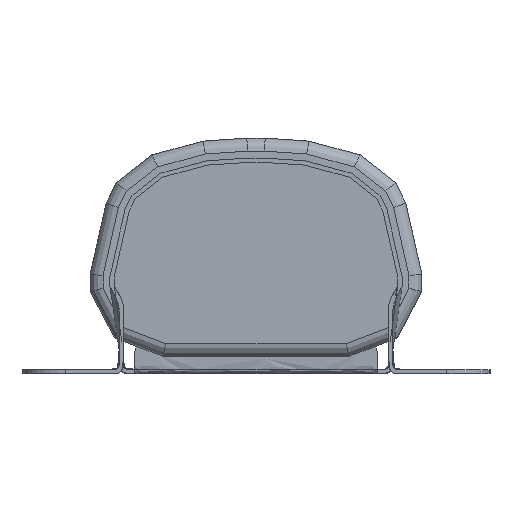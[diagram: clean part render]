
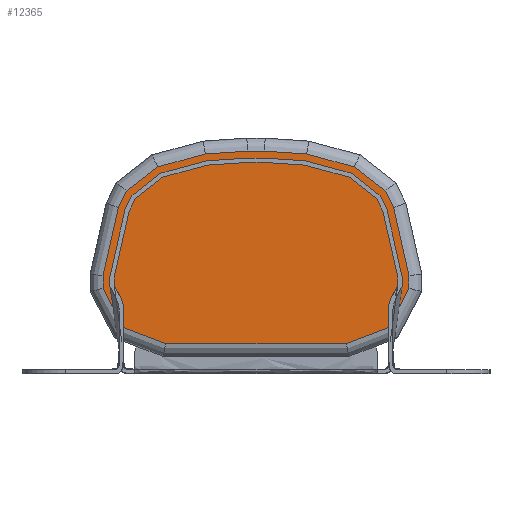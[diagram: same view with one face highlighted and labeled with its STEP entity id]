
A CAD part, left-side view. The second image highlights one B-rep face of the part: STEP entity #12365.
In plain terms, the highlighted planar face has unit normal (-1, 0, 0).
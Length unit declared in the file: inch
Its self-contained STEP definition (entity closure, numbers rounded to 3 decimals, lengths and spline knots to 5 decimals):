
#124 = ORIENTED_EDGE ( 'NONE', *, *, #11000, .F. ) ;
#620 = VECTOR ( 'NONE', #6642, 39.37008 ) ;
#664 = CARTESIAN_POINT ( 'NONE',  ( -17.70669, 0.69488, 0.41339 ) ) ;
#703 = VERTEX_POINT ( 'NONE', #4856 ) ;
#736 = VERTEX_POINT ( 'NONE', #5446 ) ;
#1008 = DIRECTION ( 'NONE',  ( 0., -0.441, 0.898 ) ) ;
#1064 = DIRECTION ( 'NONE',  ( 0., 1., 0. ) ) ;
#1134 = CARTESIAN_POINT ( 'NONE',  ( -17.70669, 0., 0.1378 ) ) ;
#1176 = ORIENTED_EDGE ( 'NONE', *, *, #13439, .F. ) ;
#1306 = VECTOR ( 'NONE', #7436, 39.37008 ) ;
#1350 = ORIENTED_EDGE ( 'NONE', *, *, #16569, .F. ) ;
#1777 = VECTOR ( 'NONE', #14687, 39.37008 ) ;
#1937 = LINE ( 'NONE', #9473, #16353 ) ;
#2205 = CARTESIAN_POINT ( 'NONE',  ( -17.70669, 0.64642, 0.29602 ) ) ;
#2232 = LINE ( 'NONE', #15515, #5524 ) ;
#2293 = EDGE_CURVE ( 'NONE', #3516, #14805, #16464, .T. ) ;
#2320 = CARTESIAN_POINT ( 'NONE',  ( -17.70669, 0.44609, 0.94037 ) ) ;
#2643 = CARTESIAN_POINT ( 'NONE',  ( -17.70669, 0.69488, 0.38854 ) ) ;
#2718 = CARTESIAN_POINT ( 'NONE',  ( -17.70669, 0.41045, 0.1378 ) ) ;
#2985 = CARTESIAN_POINT ( 'NONE',  ( -17.70669, -0.69488, 0.41339 ) ) ;
#3101 = CARTESIAN_POINT ( 'NONE',  ( -17.70669, -0.64642, 0.29602 ) ) ;
#3121 = EDGE_CURVE ( 'NONE', #14147, #736, #13590, .T. ) ;
#3296 = VECTOR ( 'NONE', #7617, 39.37008 ) ;
#3516 = VERTEX_POINT ( 'NONE', #17557 ) ;
#3560 = VECTOR ( 'NONE', #13193, 39.37008 ) ;
#4034 = AXIS2_PLACEMENT_3D ( 'NONE', #8186, #17888, #9576 ) ;
#4051 = ORIENTED_EDGE ( 'NONE', *, *, #11209, .F. ) ;
#4329 = CARTESIAN_POINT ( 'NONE',  ( -17.70669, 0.13684, 1.00524 ) ) ;
#4397 = DIRECTION ( 'NONE',  ( 0., 0., -1. ) ) ;
#4637 = DIRECTION ( 'NONE',  ( 0., 0.464, -0.886 ) ) ;
#4816 = VECTOR ( 'NONE', #4397, 39.37008 ) ;
#4856 = CARTESIAN_POINT ( 'NONE',  ( -17.70669, -0.69488, 0.38854 ) ) ;
#4888 = EDGE_CURVE ( 'NONE', #7848, #9646, #11385, .T. ) ;
#4928 = CARTESIAN_POINT ( 'NONE',  ( -17.70669, -0.60522, 0.79615 ) ) ;
#5145 = DIRECTION ( 'NONE',  ( 0., -0.791, -0.611 ) ) ;
#5176 = VERTEX_POINT ( 'NONE', #2320 ) ;
#5249 = LINE ( 'NONE', #4329, #12321 ) ;
#5257 = DIRECTION ( 'NONE',  ( 0., -0.22, 0.975 ) ) ;
#5446 = CARTESIAN_POINT ( 'NONE',  ( -17.70669, -0.41045, 0.1378 ) ) ;
#5465 = EDGE_CURVE ( 'NONE', #16060, #3516, #15704, .T. ) ;
#5489 = ORIENTED_EDGE ( 'NONE', *, *, #10057, .F. ) ;
#5499 = ORIENTED_EDGE ( 'NONE', *, *, #8814, .F. ) ;
#5524 = VECTOR ( 'NONE', #5761, 39.37008 ) ;
#5542 = ORIENTED_EDGE ( 'NONE', *, *, #4888, .F. ) ;
#5615 = CARTESIAN_POINT ( 'NONE',  ( -17.70669, 0.51143, 0.17618 ) ) ;
#5760 = DIRECTION ( 'NONE',  ( 0., -0.998, 0.067 ) ) ;
#5761 = DIRECTION ( 'NONE',  ( 0., -0.965, 0.262 ) ) ;
#5765 = EDGE_LOOP ( 'NONE', ( #9078, #5499, #6384, #16012, #14013, #5542, #17594, #12480, #16764, #8558, #4051, #12163, #11213, #7345, #1176, #1350, #124, #5489 ) ) ;
#5936 = CARTESIAN_POINT ( 'NONE',  ( -17.70669, -0.51801, 0.8848 ) ) ;
#6218 = VECTOR ( 'NONE', #5145, 39.37008 ) ;
#6384 = ORIENTED_EDGE ( 'NONE', *, *, #3121, .F. ) ;
#6573 = VECTOR ( 'NONE', #1008, 39.37008 ) ;
#6642 = DIRECTION ( 'NONE',  ( 0., -0.22, -0.975 ) ) ;
#6950 = DIRECTION ( 'NONE',  ( 0., -1., 0. ) ) ;
#7074 = DIRECTION ( 'NONE',  ( 0., 0.935, 0.355 ) ) ;
#7345 = ORIENTED_EDGE ( 'NONE', *, *, #14346, .F. ) ;
#7436 = DIRECTION ( 'NONE',  ( 0., -0.965, -0.262 ) ) ;
#7472 = VERTEX_POINT ( 'NONE', #8830 ) ;
#7533 = LINE ( 'NONE', #664, #3296 ) ;
#7617 = DIRECTION ( 'NONE',  ( 0., 0., 1. ) ) ;
#7629 = CARTESIAN_POINT ( 'NONE',  ( -17.70669, -0.69488, 0.44618 ) ) ;
#7848 = VERTEX_POINT ( 'NONE', #11012 ) ;
#7927 = VERTEX_POINT ( 'NONE', #2643 ) ;
#7971 = CARTESIAN_POINT ( 'NONE',  ( -17.70669, 0.60522, 0.79615 ) ) ;
#8186 = CARTESIAN_POINT ( 'NONE',  ( -17.70669, -0.69488, 0.1378 ) ) ;
#8218 = CARTESIAN_POINT ( 'NONE',  ( -17.70669, -0.34107, 0.96888 ) ) ;
#8386 = VERTEX_POINT ( 'NONE', #2718 ) ;
#8558 = ORIENTED_EDGE ( 'NONE', *, *, #13493, .F. ) ;
#8573 = VECTOR ( 'NONE', #7074, 39.37008 ) ;
#8814 = EDGE_CURVE ( 'NONE', #736, #8386, #16069, .T. ) ;
#8823 = LINE ( 'NONE', #4928, #1777 ) ;
#8830 = CARTESIAN_POINT ( 'NONE',  ( -17.70669, 0.60161, 0.21046 ) ) ;
#8940 = VERTEX_POINT ( 'NONE', #13984 ) ;
#8961 = CARTESIAN_POINT ( 'NONE',  ( -17.70669, -0.58838, 0.83044 ) ) ;
#9032 = LINE ( 'NONE', #16611, #11461 ) ;
#9078 = ORIENTED_EDGE ( 'NONE', *, *, #15697, .F. ) ;
#9135 = VECTOR ( 'NONE', #1064, 39.37008 ) ;
#9360 = CARTESIAN_POINT ( 'NONE',  ( -17.70669, -0.23037, 0.99893 ) ) ;
#9453 = VERTEX_POINT ( 'NONE', #14028 ) ;
#9473 = CARTESIAN_POINT ( 'NONE',  ( -17.70669, -0.13684, 1.00524 ) ) ;
#9576 = DIRECTION ( 'NONE',  ( 0., 0., 1. ) ) ;
#9602 = CARTESIAN_POINT ( 'NONE',  ( -17.70669, -0.03944, 1.01181 ) ) ;
#9646 = VERTEX_POINT ( 'NONE', #7629 ) ;
#9706 = CARTESIAN_POINT ( 'NONE',  ( -17.70669, 0.51801, 0.8848 ) ) ;
#10057 = EDGE_CURVE ( 'NONE', #7472, #7927, #18011, .T. ) ;
#10307 = EDGE_CURVE ( 'NONE', #5176, #16403, #2232, .T. ) ;
#10312 = LINE ( 'NONE', #7971, #6573 ) ;
#10576 = CARTESIAN_POINT ( 'NONE',  ( -17.70669, 0.69488, 0.44618 ) ) ;
#11000 = EDGE_CURVE ( 'NONE', #7927, #16363, #7533, .T. ) ;
#11012 = CARTESIAN_POINT ( 'NONE',  ( -17.70669, -0.62503, 0.75579 ) ) ;
#11209 = EDGE_CURVE ( 'NONE', #8940, #16212, #9032, .T. ) ;
#11213 = ORIENTED_EDGE ( 'NONE', *, *, #10307, .F. ) ;
#11325 = CARTESIAN_POINT ( 'NONE',  ( -17.70669, -0.51143, 0.17618 ) ) ;
#11385 = LINE ( 'NONE', #17479, #620 ) ;
#11408 = EDGE_CURVE ( 'NONE', #14805, #7848, #8823, .T. ) ;
#11461 = VECTOR ( 'NONE', #6950, 39.37008 ) ;
#11560 = DIRECTION ( 'NONE',  ( 0., 0.935, -0.355 ) ) ;
#11667 = LINE ( 'NONE', #9706, #15327 ) ;
#11684 = VERTEX_POINT ( 'NONE', #13027 ) ;
#12163 = ORIENTED_EDGE ( 'NONE', *, *, #14570, .F. ) ;
#12321 = VECTOR ( 'NONE', #5760, 39.37008 ) ;
#12365 = ADVANCED_FACE ( 'NONE', ( #17463 ), #16428, .T. ) ;
#12480 = ORIENTED_EDGE ( 'NONE', *, *, #2293, .F. ) ;
#12727 = LINE ( 'NONE', #5615, #8573 ) ;
#12764 = LINE ( 'NONE', #2985, #4816 ) ;
#13027 = CARTESIAN_POINT ( 'NONE',  ( -17.70669, 0.58838, 0.83044 ) ) ;
#13185 = CARTESIAN_POINT ( 'NONE',  ( -17.70669, -0.60161, 0.21046 ) ) ;
#13193 = DIRECTION ( 'NONE',  ( 0., 0.464, 0.886 ) ) ;
#13439 = EDGE_CURVE ( 'NONE', #9453, #11684, #10312, .T. ) ;
#13493 = EDGE_CURVE ( 'NONE', #16212, #16060, #1937, .T. ) ;
#13590 = LINE ( 'NONE', #11325, #15962 ) ;
#13984 = CARTESIAN_POINT ( 'NONE',  ( -17.70669, 0.03944, 1.01181 ) ) ;
#14013 = ORIENTED_EDGE ( 'NONE', *, *, #14612, .F. ) ;
#14028 = CARTESIAN_POINT ( 'NONE',  ( -17.70669, 0.62503, 0.75579 ) ) ;
#14147 = VERTEX_POINT ( 'NONE', #13185 ) ;
#14346 = EDGE_CURVE ( 'NONE', #11684, #5176, #11667, .T. ) ;
#14521 = EDGE_CURVE ( 'NONE', #703, #14147, #17277, .T. ) ;
#14570 = EDGE_CURVE ( 'NONE', #16403, #8940, #5249, .T. ) ;
#14612 = EDGE_CURVE ( 'NONE', #9646, #703, #12764, .T. ) ;
#14687 = DIRECTION ( 'NONE',  ( 0., -0.441, -0.898 ) ) ;
#14781 = CARTESIAN_POINT ( 'NONE',  ( -17.70669, 0.23037, 0.99893 ) ) ;
#14805 = VERTEX_POINT ( 'NONE', #8961 ) ;
#15021 = CARTESIAN_POINT ( 'NONE',  ( -17.70669, 0.65992, 0.60117 ) ) ;
#15028 = DIRECTION ( 'NONE',  ( 0., -0.998, -0.067 ) ) ;
#15327 = VECTOR ( 'NONE', #18010, 39.37008 ) ;
#15515 = CARTESIAN_POINT ( 'NONE',  ( -17.70669, 0.34107, 0.96888 ) ) ;
#15681 = VECTOR ( 'NONE', #5257, 39.37008 ) ;
#15697 = EDGE_CURVE ( 'NONE', #8386, #7472, #12727, .T. ) ;
#15704 = LINE ( 'NONE', #8218, #1306 ) ;
#15962 = VECTOR ( 'NONE', #11560, 39.37008 ) ;
#16012 = ORIENTED_EDGE ( 'NONE', *, *, #14521, .F. ) ;
#16060 = VERTEX_POINT ( 'NONE', #9360 ) ;
#16069 = LINE ( 'NONE', #1134, #9135 ) ;
#16116 = LINE ( 'NONE', #15021, #15681 ) ;
#16212 = VERTEX_POINT ( 'NONE', #9602 ) ;
#16353 = VECTOR ( 'NONE', #15028, 39.37008 ) ;
#16363 = VERTEX_POINT ( 'NONE', #10576 ) ;
#16398 = VECTOR ( 'NONE', #4637, 39.37008 ) ;
#16403 = VERTEX_POINT ( 'NONE', #14781 ) ;
#16428 = PLANE ( 'NONE',  #4034 ) ;
#16464 = LINE ( 'NONE', #5936, #6218 ) ;
#16569 = EDGE_CURVE ( 'NONE', #16363, #9453, #16116, .T. ) ;
#16611 = CARTESIAN_POINT ( 'NONE',  ( -17.70669, 0., 1.01181 ) ) ;
#16764 = ORIENTED_EDGE ( 'NONE', *, *, #5465, .F. ) ;
#17277 = LINE ( 'NONE', #3101, #16398 ) ;
#17463 = FACE_OUTER_BOUND ( 'NONE', #5765, .T. ) ;
#17479 = CARTESIAN_POINT ( 'NONE',  ( -17.70669, -0.65992, 0.60117 ) ) ;
#17557 = CARTESIAN_POINT ( 'NONE',  ( -17.70669, -0.44609, 0.94037 ) ) ;
#17594 = ORIENTED_EDGE ( 'NONE', *, *, #11408, .F. ) ;
#17888 = DIRECTION ( 'NONE',  ( -1., 0., 0. ) ) ;
#18010 = DIRECTION ( 'NONE',  ( 0., -0.791, 0.611 ) ) ;
#18011 = LINE ( 'NONE', #2205, #3560 ) ;
